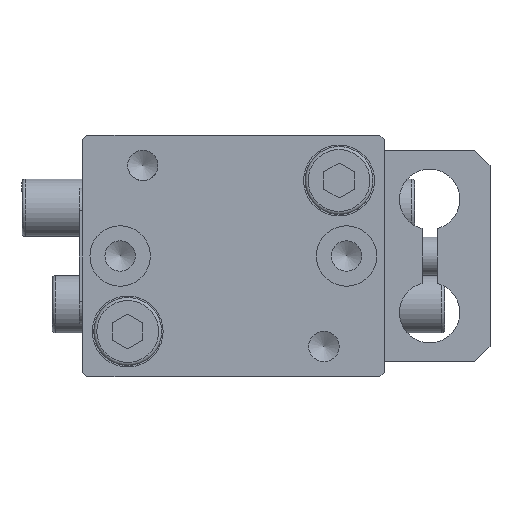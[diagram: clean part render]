
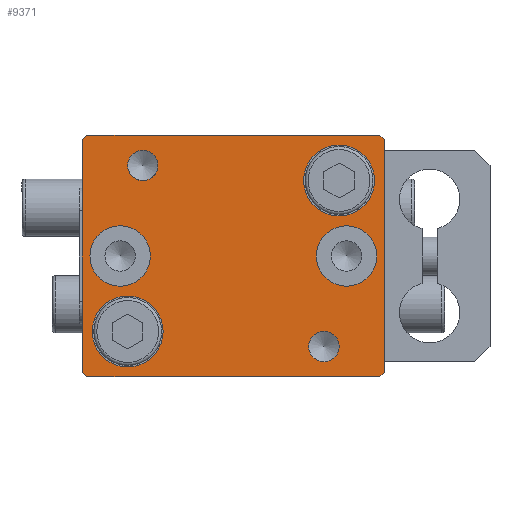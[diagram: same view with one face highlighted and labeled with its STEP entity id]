
A CAD part, front view. The second image highlights one B-rep face of the part: STEP entity #9371.
In plain terms, the highlighted planar face has unit normal (0, -1, 0) as drawn and (0, 1, 0) by its records, which use the part's own axes.
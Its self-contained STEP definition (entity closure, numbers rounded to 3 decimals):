
#240=CIRCLE('',#9842,1.007);
#241=CIRCLE('',#9843,1.007);
#242=CIRCLE('',#9844,2.35);
#243=CIRCLE('',#9845,2.35);
#244=CIRCLE('',#9846,2.);
#245=CIRCLE('',#9847,2.);
#508=ORIENTED_EDGE('',*,*,#2614,.T.);
#509=ORIENTED_EDGE('',*,*,#2615,.T.);
#510=ORIENTED_EDGE('',*,*,#2616,.T.);
#511=ORIENTED_EDGE('',*,*,#2617,.T.);
#512=ORIENTED_EDGE('',*,*,#2618,.T.);
#513=ORIENTED_EDGE('',*,*,#2619,.T.);
#514=ORIENTED_EDGE('',*,*,#2560,.T.);
#515=ORIENTED_EDGE('',*,*,#2592,.T.);
#516=ORIENTED_EDGE('',*,*,#2595,.T.);
#517=ORIENTED_EDGE('',*,*,#2598,.T.);
#518=ORIENTED_EDGE('',*,*,#2605,.T.);
#519=ORIENTED_EDGE('',*,*,#2608,.T.);
#520=ORIENTED_EDGE('',*,*,#2611,.T.);
#521=ORIENTED_EDGE('',*,*,#2613,.T.);
#2560=EDGE_CURVE('',#3619,#3618,#4361,.T.);
#2592=EDGE_CURVE('',#3618,#3649,#4384,.T.);
#2595=EDGE_CURVE('',#3649,#3651,#4387,.T.);
#2598=EDGE_CURVE('',#3651,#3653,#4390,.T.);
#2605=EDGE_CURVE('',#3653,#3659,#4393,.T.);
#2608=EDGE_CURVE('',#3659,#3661,#4396,.T.);
#2611=EDGE_CURVE('',#3661,#3663,#4399,.T.);
#2613=EDGE_CURVE('',#3663,#3619,#4401,.T.);
#2614=EDGE_CURVE('',#3664,#3664,#240,.T.);
#2615=EDGE_CURVE('',#3665,#3665,#241,.T.);
#2616=EDGE_CURVE('',#3666,#3666,#242,.T.);
#2617=EDGE_CURVE('',#3667,#3667,#243,.T.);
#2618=EDGE_CURVE('',#3668,#3668,#244,.T.);
#2619=EDGE_CURVE('',#3669,#3669,#245,.T.);
#3618=VERTEX_POINT('',#12633);
#3619=VERTEX_POINT('',#12635);
#3649=VERTEX_POINT('',#12731);
#3651=VERTEX_POINT('',#12737);
#3653=VERTEX_POINT('',#12743);
#3659=VERTEX_POINT('',#12757);
#3661=VERTEX_POINT('',#12763);
#3663=VERTEX_POINT('',#12769);
#3664=VERTEX_POINT('',#12776);
#3665=VERTEX_POINT('',#12778);
#3666=VERTEX_POINT('',#12780);
#3667=VERTEX_POINT('',#12782);
#3668=VERTEX_POINT('',#12784);
#3669=VERTEX_POINT('',#12786);
#4361=LINE('',#12634,#5210);
#4384=LINE('',#12732,#5233);
#4387=LINE('',#12738,#5236);
#4390=LINE('',#12744,#5239);
#4393=LINE('',#12758,#5242);
#4396=LINE('',#12764,#5245);
#4399=LINE('',#12770,#5248);
#4401=LINE('',#12773,#5250);
#5210=VECTOR('',#10484,1000.);
#5233=VECTOR('',#10521,1000.);
#5236=VECTOR('',#10526,1000.);
#5239=VECTOR('',#10531,1000.);
#5242=VECTOR('',#10544,1000.);
#5245=VECTOR('',#10549,1000.);
#5248=VECTOR('',#10554,1000.);
#5250=VECTOR('',#10558,1000.);
#6071=EDGE_LOOP('',(#508));
#6072=EDGE_LOOP('',(#509));
#6073=EDGE_LOOP('',(#510));
#6074=EDGE_LOOP('',(#511));
#6075=EDGE_LOOP('',(#512));
#6076=EDGE_LOOP('',(#513));
#6077=EDGE_LOOP('',(#514,#515,#516,#517,#518,#519,#520,#521));
#6614=FACE_BOUND('',#6071,.T.);
#6615=FACE_BOUND('',#6072,.T.);
#6616=FACE_BOUND('',#6073,.T.);
#6617=FACE_BOUND('',#6074,.T.);
#6618=FACE_BOUND('',#6075,.T.);
#6619=FACE_BOUND('',#6076,.T.);
#6620=FACE_BOUND('',#6077,.T.);
#7154=PLANE('',#9841);
#9371=ADVANCED_FACE('',(#6614,#6615,#6616,#6617,#6618,#6619,#6620),#7154,
 .T.);
#9841=AXIS2_PLACEMENT_3D('',#12774,#10559,#10560);
#9842=AXIS2_PLACEMENT_3D('',#12775,#10561,#10562);
#9843=AXIS2_PLACEMENT_3D('',#12777,#10563,#10564);
#9844=AXIS2_PLACEMENT_3D('',#12779,#10565,#10566);
#9845=AXIS2_PLACEMENT_3D('',#12781,#10567,#10568);
#9846=AXIS2_PLACEMENT_3D('',#12783,#10569,#10570);
#9847=AXIS2_PLACEMENT_3D('',#12785,#10571,#10572);
#10484=DIRECTION('',(0.,0.,1.));
#10521=DIRECTION('',(0.707,0.,0.707));
#10526=DIRECTION('',(1.,0.,0.));
#10531=DIRECTION('',(0.707,0.,-0.707));
#10544=DIRECTION('',(0.,0.,-1.));
#10549=DIRECTION('',(-0.707,0.,-0.707));
#10554=DIRECTION('',(-1.,0.,0.));
#10558=DIRECTION('',(-0.707,0.,0.707));
#10559=DIRECTION('',(0.,1.,0.));
#10560=DIRECTION('',(0.,0.,1.));
#10561=DIRECTION('',(0.,-1.,0.));
#10562=DIRECTION('',(0.,0.,-1.));
#10563=DIRECTION('',(0.,-1.,0.));
#10564=DIRECTION('',(0.,0.,-1.));
#10565=DIRECTION('',(0.,-1.,0.));
#10566=DIRECTION('',(0.,0.,-1.));
#10567=DIRECTION('',(0.,-1.,0.));
#10568=DIRECTION('',(0.,0.,-1.));
#10569=DIRECTION('',(0.,-1.,0.));
#10570=DIRECTION('',(1.,0.,0.));
#10571=DIRECTION('',(0.,-1.,0.));
#10572=DIRECTION('',(1.,0.,0.));
#12633=CARTESIAN_POINT('',(-10.,20.9,7.7));
#12634=CARTESIAN_POINT('',(-10.,20.9,-7.7));
#12635=CARTESIAN_POINT('',(-10.,20.9,-7.7));
#12731=CARTESIAN_POINT('',(-9.7,20.9,8.));
#12732=CARTESIAN_POINT('',(-10.,20.9,7.7));
#12737=CARTESIAN_POINT('',(9.7,20.9,8.));
#12738=CARTESIAN_POINT('',(-9.7,20.9,8.));
#12743=CARTESIAN_POINT('',(10.,20.9,7.7));
#12744=CARTESIAN_POINT('',(9.7,20.9,8.));
#12757=CARTESIAN_POINT('',(10.,20.9,-7.7));
#12758=CARTESIAN_POINT('',(10.,20.9,7.7));
#12763=CARTESIAN_POINT('',(9.7,20.9,-8.));
#12764=CARTESIAN_POINT('',(10.,20.9,-7.7));
#12769=CARTESIAN_POINT('',(-9.7,20.9,-8.));
#12770=CARTESIAN_POINT('',(9.7,20.9,-8.));
#12773=CARTESIAN_POINT('',(-9.7,20.9,-8.));
#12774=CARTESIAN_POINT('',(0.,20.9,0.));
#12775=CARTESIAN_POINT('',(6.,20.9,6.));
#12776=CARTESIAN_POINT('',(6.,20.9,4.993));
#12777=CARTESIAN_POINT('',(-6.,20.9,-6.));
#12778=CARTESIAN_POINT('',(-6.,20.9,-7.007));
#12779=CARTESIAN_POINT('',(-7.,20.9,5.));
#12780=CARTESIAN_POINT('',(-7.,20.9,2.65));
#12781=CARTESIAN_POINT('',(7.,20.9,-5.));
#12782=CARTESIAN_POINT('',(7.,20.9,-7.35));
#12783=CARTESIAN_POINT('',(-7.5,20.9,0.));
#12784=CARTESIAN_POINT('',(-5.5,20.9,0.));
#12785=CARTESIAN_POINT('',(7.5,20.9,0.));
#12786=CARTESIAN_POINT('',(9.5,20.9,0.));
